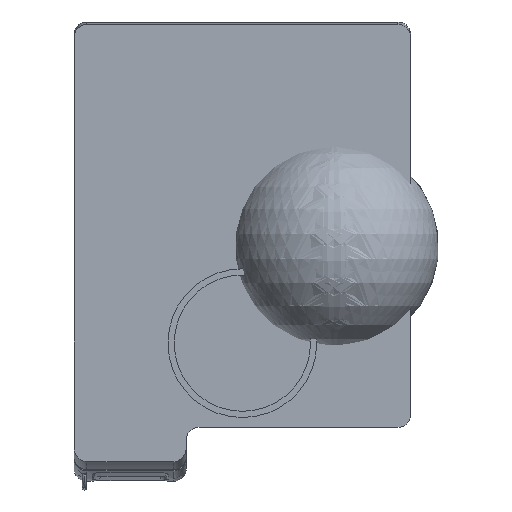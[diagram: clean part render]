
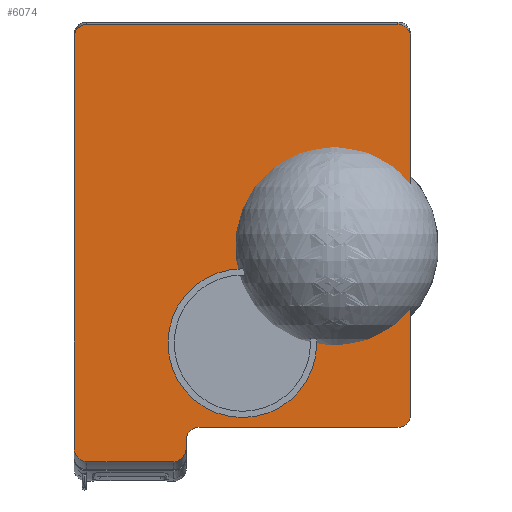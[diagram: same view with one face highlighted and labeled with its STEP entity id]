
A CAD part, left-side view. The second image highlights one B-rep face of the part: STEP entity #6074.
In plain terms, the highlighted planar face has unit normal (1, 0, 0).
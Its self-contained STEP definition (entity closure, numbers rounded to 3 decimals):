
#5918=CARTESIAN_POINT('',(-37.99,68.64,95.265));
#5919=DIRECTION('',(-1.0,0.0,0.0));
#5920=DIRECTION('',(0.0,0.0,1.0));
#5921=AXIS2_PLACEMENT_3D('',#5918,#5919,#5920);
#5922=PLANE('',#5921);
#5923=CARTESIAN_POINT('',(-37.99,-66.,175.955));
#5924=VERTEX_POINT('',#5923);
#5925=CARTESIAN_POINT('',(-37.99,-61.,181.006));
#5926=VERTEX_POINT('',#5925);
#5927=CARTESIAN_POINT('',(-37.99,-66.,175.955));
#5928=CARTESIAN_POINT('',(-37.99,-66.003,176.84));
#5929=CARTESIAN_POINT('',(-37.99,-65.765,177.723));
#5930=CARTESIAN_POINT('',(-37.99,-65.325,178.49));
#5931=CARTESIAN_POINT('',(-37.99,-65.107,178.87));
#5932=CARTESIAN_POINT('',(-37.99,-64.839,179.222));
#5933=CARTESIAN_POINT('',(-37.99,-64.53,179.533));
#5934=CARTESIAN_POINT('',(-37.99,-64.222,179.843));
#5935=CARTESIAN_POINT('',(-37.99,-63.873,180.113));
#5936=CARTESIAN_POINT('',(-37.99,-63.495,180.333));
#5937=CARTESIAN_POINT('',(-37.99,-62.742,180.771));
#5938=CARTESIAN_POINT('',(-37.99,-61.872,181.009));
#5939=CARTESIAN_POINT('',(-37.99,-61.,181.006));
#5940=B_SPLINE_CURVE_WITH_KNOTS('',3,(#5927,#5928,#5929,#5930,#5931,#5932,#5933,#5934,#5935,#5936,#5937,#5938,#5939),.UNSPECIFIED.,.F.,.U.,(4,3,3,3,4),(0.0,0.336,0.503,0.669,1.0),.UNSPECIFIED.);
#5941=EDGE_CURVE('',#5924,#5926,#5940,.T.);
#5942=ORIENTED_EDGE('',*,*,#5941,.F.);
#5943=CARTESIAN_POINT('',(-37.99,-66.0,27.95));
#5944=VERTEX_POINT('',#5943);
#5945=CARTESIAN_POINT('',(-37.99,-66.0,175.955));
#5946=DIRECTION('',(0.0,0.0,-1.0));
#5947=VECTOR('',#5946,148.005);
#5948=LINE('',#5945,#5947);
#5949=EDGE_CURVE('',#5924,#5944,#5948,.T.);
#5950=ORIENTED_EDGE('',*,*,#5949,.T.);
#5951=CARTESIAN_POINT('',(-37.99,-61.,22.95));
#5952=VERTEX_POINT('',#5951);
#5953=CARTESIAN_POINT('',(-37.99,-61.,27.95));
#5954=DIRECTION('',(-1.0,0.0,0.0));
#5955=DIRECTION('',(0.0,0.0,-1.0));
#5956=AXIS2_PLACEMENT_3D('',#5953,#5954,#5955);
#5957=CIRCLE('',#5956,5.0);
#5958=EDGE_CURVE('',#5952,#5944,#5957,.T.);
#5959=ORIENTED_EDGE('',*,*,#5958,.F.);
#5960=CARTESIAN_POINT('',(-37.99,17.0,22.95));
#5961=VERTEX_POINT('',#5960);
#5962=CARTESIAN_POINT('',(-37.99,17.0,22.95));
#5963=DIRECTION('',(0.0,-1.0,0.0));
#5964=VECTOR('',#5963,78.0);
#5965=LINE('',#5962,#5964);
#5966=EDGE_CURVE('',#5961,#5952,#5965,.T.);
#5967=ORIENTED_EDGE('',*,*,#5966,.F.);
#5968=CARTESIAN_POINT('',(-37.99,22.0,17.95));
#5969=VERTEX_POINT('',#5968);
#5970=CARTESIAN_POINT('',(-37.99,17.0,17.95));
#5971=DIRECTION('',(1.0,0.0,0.0));
#5972=DIRECTION('',(0.0,1.0,0.0));
#5973=AXIS2_PLACEMENT_3D('',#5970,#5971,#5972);
#5974=CIRCLE('',#5973,5.0);
#5975=EDGE_CURVE('',#5969,#5961,#5974,.T.);
#5976=ORIENTED_EDGE('',*,*,#5975,.F.);
#5977=CARTESIAN_POINT('',(-37.99,22.0,15.178));
#5978=VERTEX_POINT('',#5977);
#5979=CARTESIAN_POINT('',(-37.99,22.0,17.95));
#5980=DIRECTION('',(0.0,0.0,-1.0));
#5981=VECTOR('',#5980,2.772);
#5982=LINE('',#5979,#5981);
#5983=EDGE_CURVE('',#5969,#5978,#5982,.T.);
#5984=ORIENTED_EDGE('',*,*,#5983,.T.);
#5985=CARTESIAN_POINT('',(-37.99,27.,9.524));
#5986=VERTEX_POINT('',#5985);
#5987=CARTESIAN_POINT('',(-37.99,27.,9.524));
#5988=CARTESIAN_POINT('',(-37.99,26.147,9.52));
#5989=CARTESIAN_POINT('',(-37.99,25.303,9.776));
#5990=CARTESIAN_POINT('',(-37.99,24.58,10.225));
#5991=CARTESIAN_POINT('',(-37.99,24.194,10.464));
#5992=CARTESIAN_POINT('',(-37.99,23.842,10.758));
#5993=CARTESIAN_POINT('',(-37.99,23.534,11.092));
#5994=CARTESIAN_POINT('',(-37.99,23.216,11.436));
#5995=CARTESIAN_POINT('',(-37.99,22.943,11.824));
#5996=CARTESIAN_POINT('',(-37.99,22.722,12.237));
#5997=CARTESIAN_POINT('',(-37.99,22.241,13.136));
#5998=CARTESIAN_POINT('',(-37.99,21.999,14.161));
#5999=CARTESIAN_POINT('',(-37.99,22.,15.178));
#6000=B_SPLINE_CURVE_WITH_KNOTS('',3,(#5987,#5988,#5989,#5990,#5991,#5992,#5993,#5994,#5995,#5996,#5997,#5998,#5999),.UNSPECIFIED.,.F.,.U.,(4,3,3,3,4),(0.0,0.304,0.467,0.635,1.0),.UNSPECIFIED.);
#6001=EDGE_CURVE('',#5986,#5978,#6000,.T.);
#6002=ORIENTED_EDGE('',*,*,#6001,.F.);
#6003=CARTESIAN_POINT('',(-37.99,61.,9.524));
#6004=VERTEX_POINT('',#6003);
#6005=CARTESIAN_POINT('',(-37.99,61.,9.524));
#6006=DIRECTION('',(0.0,-1.0,0.0));
#6007=VECTOR('',#6006,34.);
#6008=LINE('',#6005,#6007);
#6009=EDGE_CURVE('',#6004,#5986,#6008,.T.);
#6010=ORIENTED_EDGE('',*,*,#6009,.F.);
#6011=CARTESIAN_POINT('',(-37.99,66.0,15.178));
#6012=VERTEX_POINT('',#6011);
#6013=CARTESIAN_POINT('',(-37.99,66.0,15.178));
#6014=CARTESIAN_POINT('',(-37.99,66.001,14.16));
#6015=CARTESIAN_POINT('',(-37.99,65.759,13.135));
#6016=CARTESIAN_POINT('',(-37.99,65.277,12.236));
#6017=CARTESIAN_POINT('',(-37.99,65.056,11.823));
#6018=CARTESIAN_POINT('',(-37.99,64.784,11.436));
#6019=CARTESIAN_POINT('',(-37.99,64.465,11.091));
#6020=CARTESIAN_POINT('',(-37.99,64.157,10.757));
#6021=CARTESIAN_POINT('',(-37.99,63.806,10.464));
#6022=CARTESIAN_POINT('',(-37.99,63.42,10.224));
#6023=CARTESIAN_POINT('',(-37.99,62.697,9.776));
#6024=CARTESIAN_POINT('',(-37.99,61.853,9.52));
#6025=CARTESIAN_POINT('',(-37.99,61.,9.524));
#6026=B_SPLINE_CURVE_WITH_KNOTS('',3,(#6013,#6014,#6015,#6016,#6017,#6018,#6019,#6020,#6021,#6022,#6023,#6024,#6025),.UNSPECIFIED.,.F.,.U.,(4,3,3,3,4),(0.0,0.365,0.533,0.696,1.0),.UNSPECIFIED.);
#6027=EDGE_CURVE('',#6012,#6004,#6026,.T.);
#6028=ORIENTED_EDGE('',*,*,#6027,.F.);
#6029=CARTESIAN_POINT('',(-37.99,66.0,175.955));
#6030=VERTEX_POINT('',#6029);
#6031=CARTESIAN_POINT('',(-37.99,66.0,15.178));
#6032=DIRECTION('',(0.0,0.0,1.0));
#6033=VECTOR('',#6032,160.777);
#6034=LINE('',#6031,#6033);
#6035=EDGE_CURVE('',#6012,#6030,#6034,.T.);
#6036=ORIENTED_EDGE('',*,*,#6035,.T.);
#6037=CARTESIAN_POINT('',(-37.99,61.,181.006));
#6038=VERTEX_POINT('',#6037);
#6039=CARTESIAN_POINT('',(-37.99,61.,181.006));
#6040=CARTESIAN_POINT('',(-37.99,61.872,181.009));
#6041=CARTESIAN_POINT('',(-37.99,62.741,180.771));
#6042=CARTESIAN_POINT('',(-37.99,63.495,180.333));
#6043=CARTESIAN_POINT('',(-37.99,63.873,180.113));
#6044=CARTESIAN_POINT('',(-37.99,64.221,179.844));
#6045=CARTESIAN_POINT('',(-37.99,64.529,179.534));
#6046=CARTESIAN_POINT('',(-37.99,64.838,179.223));
#6047=CARTESIAN_POINT('',(-37.99,65.106,178.871));
#6048=CARTESIAN_POINT('',(-37.99,65.325,178.491));
#6049=CARTESIAN_POINT('',(-37.99,65.765,177.724));
#6050=CARTESIAN_POINT('',(-37.99,66.003,176.84));
#6051=CARTESIAN_POINT('',(-37.99,66.0,175.955));
#6052=B_SPLINE_CURVE_WITH_KNOTS('',3,(#6039,#6040,#6041,#6042,#6043,#6044,#6045,#6046,#6047,#6048,#6049,#6050,#6051),.UNSPECIFIED.,.F.,.U.,(4,3,3,3,4),(0.0,0.331,0.497,0.664,1.0),.UNSPECIFIED.);
#6053=EDGE_CURVE('',#6038,#6030,#6052,.T.);
#6054=ORIENTED_EDGE('',*,*,#6053,.F.);
#6055=CARTESIAN_POINT('',(-37.99,61.,181.006));
#6056=DIRECTION('',(0.0,-1.0,0.0));
#6057=VECTOR('',#6056,122.);
#6058=LINE('',#6055,#6057);
#6059=EDGE_CURVE('',#6038,#5926,#6058,.T.);
#6060=ORIENTED_EDGE('',*,*,#6059,.T.);
#6061=EDGE_LOOP('',(#5942,#5950,#5959,#5967,#5976,#5984,#6002,#6010,#6028,#6036,#6054,#6060));
#6062=FACE_OUTER_BOUND('',#6061,.T.);
#6063=CARTESIAN_POINT('',(-37.99,29.165,56.));
#6064=VERTEX_POINT('',#6063);
#6065=CARTESIAN_POINT('',(-37.99,0.0,56.));
#6066=DIRECTION('',(-1.0,0.0,0.0));
#6067=DIRECTION('',(0.0,-1.0,0.0));
#6068=AXIS2_PLACEMENT_3D('',#6065,#6066,#6067);
#6069=CIRCLE('',#6068,29.165);
#6070=EDGE_CURVE('',#6064,#6064,#6069,.T.);
#6071=ORIENTED_EDGE('',*,*,#6070,.T.);
#6072=EDGE_LOOP('',(#6071));
#6073=FACE_BOUND('',#6072,.T.);
#6074=ADVANCED_FACE('',(#6062,#6073),#5922,.F.);
